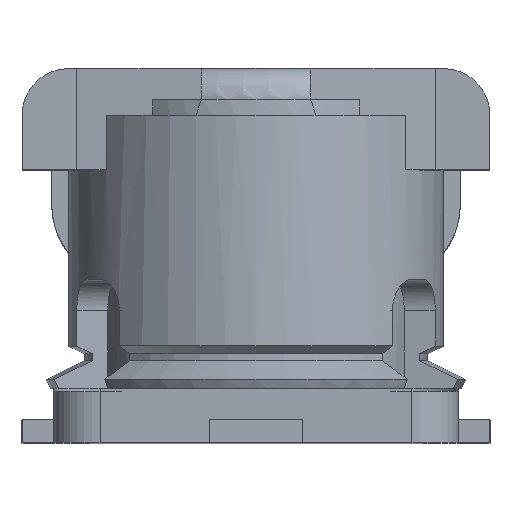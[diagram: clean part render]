
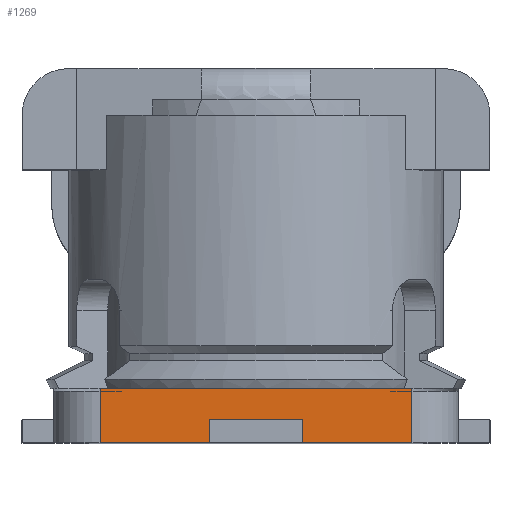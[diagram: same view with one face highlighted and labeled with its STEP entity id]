
A CAD part, top view. The second image highlights one B-rep face of the part: STEP entity #1269.
In plain terms, the highlighted planar face has unit normal (0, 0, 1).
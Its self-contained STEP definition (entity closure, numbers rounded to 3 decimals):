
#59 = CARTESIAN_POINT ( 'NONE',  ( 1., 0.35, 1.3 ) ) ;
#140 = VECTOR ( 'NONE', #10481, 1000. ) ;
#263 = EDGE_CURVE ( 'NONE', #2021, #4007, #6089, .T. ) ;
#301 = VERTEX_POINT ( 'NONE', #5817 ) ;
#797 = CARTESIAN_POINT ( 'NONE',  ( 1., 0., 1.3 ) ) ;
#819 = EDGE_CURVE ( 'NONE', #3476, #10723, #968, .T. ) ;
#877 = ORIENTED_EDGE ( 'NONE', *, *, #6231, .T. ) ;
#921 = LINE ( 'NONE', #59, #6029 ) ;
#968 = LINE ( 'NONE', #797, #11474 ) ;
#1082 = VERTEX_POINT ( 'NONE', #6600 ) ;
#1269 = ADVANCED_FACE ( 'NONE', ( #7654 ), #5598, .F. ) ;
#1281 = EDGE_CURVE ( 'NONE', #10723, #7232, #10025, .T. ) ;
#1564 = VERTEX_POINT ( 'NONE', #10044 ) ;
#1913 = VECTOR ( 'NONE', #4937, 1000. ) ;
#1954 = DIRECTION ( 'NONE',  ( 1., 0., 0. ) ) ;
#2021 = VERTEX_POINT ( 'NONE', #12582 ) ;
#2070 = DIRECTION ( 'NONE',  ( 1., 0., 0. ) ) ;
#2145 = LINE ( 'NONE', #4547, #7555 ) ;
#2177 = CARTESIAN_POINT ( 'NONE',  ( 1., 0., 1.3 ) ) ;
#2221 = LINE ( 'NONE', #6107, #12971 ) ;
#2500 = DIRECTION ( 'NONE',  ( 0., -1., 0. ) ) ;
#2537 = ORIENTED_EDGE ( 'NONE', *, *, #3384, .F. ) ;
#2538 = CARTESIAN_POINT ( 'NONE',  ( 1., 0.35, 1.3 ) ) ;
#2578 = VERTEX_POINT ( 'NONE', #5122 ) ;
#2689 = VERTEX_POINT ( 'NONE', #4516 ) ;
#2754 = LINE ( 'NONE', #2177, #10515 ) ;
#3098 = ORIENTED_EDGE ( 'NONE', *, *, #9661, .F. ) ;
#3384 = EDGE_CURVE ( 'NONE', #2689, #301, #11183, .T. ) ;
#3403 = CARTESIAN_POINT ( 'NONE',  ( -0.3, 0., 1.3 ) ) ;
#3476 = VERTEX_POINT ( 'NONE', #6379 ) ;
#4007 = VERTEX_POINT ( 'NONE', #10469 ) ;
#4060 = EDGE_CURVE ( 'NONE', #1564, #3476, #5903, .T. ) ;
#4314 = EDGE_CURVE ( 'NONE', #2578, #301, #2754, .T. ) ;
#4330 = ORIENTED_EDGE ( 'NONE', *, *, #4314, .T. ) ;
#4516 = CARTESIAN_POINT ( 'NONE',  ( 1., 0.33, 1.3 ) ) ;
#4547 = CARTESIAN_POINT ( 'NONE',  ( 1., 0.35, 1.3 ) ) ;
#4616 = ORIENTED_EDGE ( 'NONE', *, *, #6450, .T. ) ;
#4736 = CARTESIAN_POINT ( 'NONE',  ( 0.3, 0.15, 1.3 ) ) ;
#4801 = CARTESIAN_POINT ( 'NONE',  ( 1., 0.35, 1.3 ) ) ;
#4818 = DIRECTION ( 'NONE',  ( -1., 0., 0. ) ) ;
#4874 = DIRECTION ( 'NONE',  ( 0., 0., -1. ) ) ;
#4905 = CARTESIAN_POINT ( 'NONE',  ( -0.3, 0.15, 1.3 ) ) ;
#4937 = DIRECTION ( 'NONE',  ( 0., 1., 0. ) ) ;
#4958 = VERTEX_POINT ( 'NONE', #7170 ) ;
#5051 = DIRECTION ( 'NONE',  ( -1., 0., 0. ) ) ;
#5088 = CARTESIAN_POINT ( 'NONE',  ( -0.3, 0.15, 1.3 ) ) ;
#5122 = CARTESIAN_POINT ( 'NONE',  ( 0.3, 0., 1.3 ) ) ;
#5227 = CARTESIAN_POINT ( 'NONE',  ( 0.3, 0.15, 1.3 ) ) ;
#5598 = PLANE ( 'NONE',  #6025 ) ;
#5817 = CARTESIAN_POINT ( 'NONE',  ( 1., 0., 1.3 ) ) ;
#5903 = LINE ( 'NONE', #10433, #140 ) ;
#6025 = AXIS2_PLACEMENT_3D ( 'NONE', #4801, #4874, #4818 ) ;
#6029 = VECTOR ( 'NONE', #8248, 1000. ) ;
#6089 = LINE ( 'NONE', #7662, #8798 ) ;
#6107 = CARTESIAN_POINT ( 'NONE',  ( -1.5, 0.35, 1.3 ) ) ;
#6231 = EDGE_CURVE ( 'NONE', #2021, #1564, #12542, .T. ) ;
#6379 = CARTESIAN_POINT ( 'NONE',  ( -1., 0., 1.3 ) ) ;
#6450 = EDGE_CURVE ( 'NONE', #4958, #4007, #2221, .T. ) ;
#6588 = ORIENTED_EDGE ( 'NONE', *, *, #263, .F. ) ;
#6600 = CARTESIAN_POINT ( 'NONE',  ( 1., 0.35, 1.3 ) ) ;
#7163 = ORIENTED_EDGE ( 'NONE', *, *, #4060, .T. ) ;
#7170 = CARTESIAN_POINT ( 'NONE',  ( 0.21, 0.35, 1.3 ) ) ;
#7232 = VERTEX_POINT ( 'NONE', #5088 ) ;
#7555 = VECTOR ( 'NONE', #10648, 1000. ) ;
#7654 = FACE_OUTER_BOUND ( 'NONE', #12068, .T. ) ;
#7662 = CARTESIAN_POINT ( 'NONE',  ( 1., 0.35, 1.3 ) ) ;
#7663 = DIRECTION ( 'NONE',  ( 1., 0., 0. ) ) ;
#7882 = LINE ( 'NONE', #11150, #10913 ) ;
#8160 = VECTOR ( 'NONE', #2500, 1000. ) ;
#8248 = DIRECTION ( 'NONE',  ( 1., 0., 0. ) ) ;
#8722 = LINE ( 'NONE', #4736, #11416 ) ;
#8798 = VECTOR ( 'NONE', #7663, 1000. ) ;
#8942 = ORIENTED_EDGE ( 'NONE', *, *, #1281, .T. ) ;
#9492 = ORIENTED_EDGE ( 'NONE', *, *, #819, .T. ) ;
#9661 = EDGE_CURVE ( 'NONE', #1082, #2689, #2145, .T. ) ;
#10025 = LINE ( 'NONE', #4905, #1913 ) ;
#10044 = CARTESIAN_POINT ( 'NONE',  ( -1., 0.33, 1.3 ) ) ;
#10433 = CARTESIAN_POINT ( 'NONE',  ( -1., 0.35, 1.3 ) ) ;
#10469 = CARTESIAN_POINT ( 'NONE',  ( -0.21, 0.35, 1.3 ) ) ;
#10481 = DIRECTION ( 'NONE',  ( 0., -1., 0. ) ) ;
#10515 = VECTOR ( 'NONE', #1954, 1000. ) ;
#10648 = DIRECTION ( 'NONE',  ( 0., -1., 0. ) ) ;
#10723 = VERTEX_POINT ( 'NONE', #3403 ) ;
#10913 = VECTOR ( 'NONE', #5051, 1000. ) ;
#10933 = EDGE_CURVE ( 'NONE', #13189, #2578, #8722, .T. ) ;
#11150 = CARTESIAN_POINT ( 'NONE',  ( 0., 0.15, 1.3 ) ) ;
#11183 = LINE ( 'NONE', #2538, #8160 ) ;
#11214 = EDGE_CURVE ( 'NONE', #4958, #1082, #921, .T. ) ;
#11229 = ORIENTED_EDGE ( 'NONE', *, *, #11214, .F. ) ;
#11354 = ORIENTED_EDGE ( 'NONE', *, *, #10933, .T. ) ;
#11415 = ORIENTED_EDGE ( 'NONE', *, *, #13039, .F. ) ;
#11416 = VECTOR ( 'NONE', #11861, 1000. ) ;
#11474 = VECTOR ( 'NONE', #2070, 1000. ) ;
#11861 = DIRECTION ( 'NONE',  ( 0., -1., 0. ) ) ;
#12068 = EDGE_LOOP ( 'NONE', ( #8942, #11415, #11354, #4330, #2537, #3098, #11229, #4616, #6588, #877, #7163, #9492 ) ) ;
#12151 = DIRECTION ( 'NONE',  ( 0., -1., 0. ) ) ;
#12240 = VECTOR ( 'NONE', #12151, 1000. ) ;
#12542 = LINE ( 'NONE', #13117, #12240 ) ;
#12582 = CARTESIAN_POINT ( 'NONE',  ( -1., 0.35, 1.3 ) ) ;
#12971 = VECTOR ( 'NONE', #13153, 1000. ) ;
#13039 = EDGE_CURVE ( 'NONE', #13189, #7232, #7882, .T. ) ;
#13117 = CARTESIAN_POINT ( 'NONE',  ( -1., 0.35, 1.3 ) ) ;
#13153 = DIRECTION ( 'NONE',  ( -1., 0., 0. ) ) ;
#13189 = VERTEX_POINT ( 'NONE', #5227 ) ;
